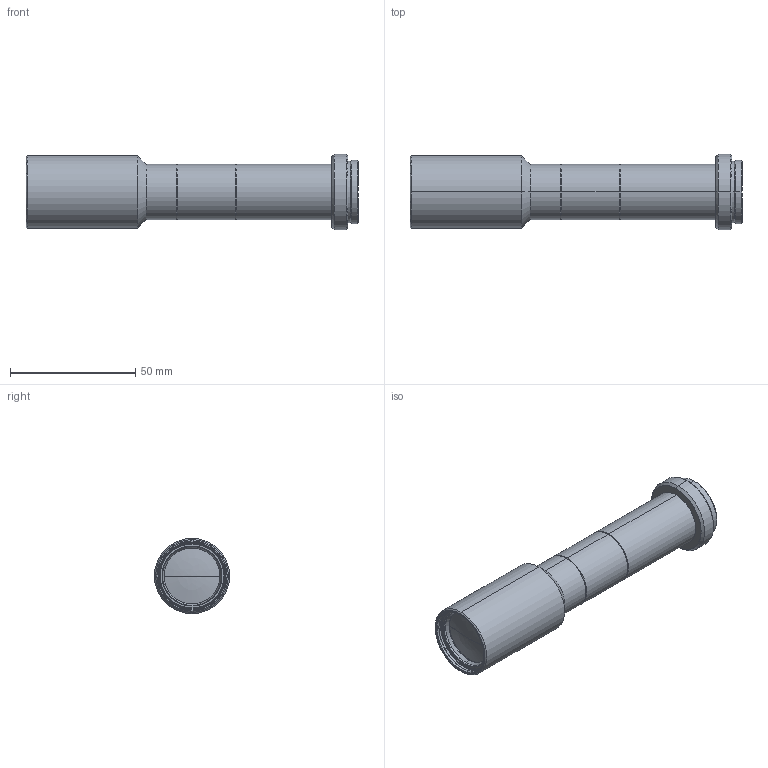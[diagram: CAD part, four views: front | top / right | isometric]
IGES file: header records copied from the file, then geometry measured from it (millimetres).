
Start section: SolidWorks IGES file using analytic representation for surfaces
Global section: file name: \\192.168.200.11\Development\02 テレセントリックレンズ\02 VS-TCH Series\100-110mm\008 VS-TCH08-110&CO\作成中_3D\VS-TCH08-110.IGS,15HSolidWorks; native system: 2014; preprocessor: SolidWorks 2014; author: miura_vst; date: 141028.102032; units: millimetre
Bounding box: 132.5 x 30 x 30 mm (x, y, z)
Surface area: 14987.4 mm2 (no closed solid volume)
Topology: 0 solids, 0 shells, 109 faces, 1200 edges, 1198 vertices
Faces by surface type: revolution 98, bspline 11
